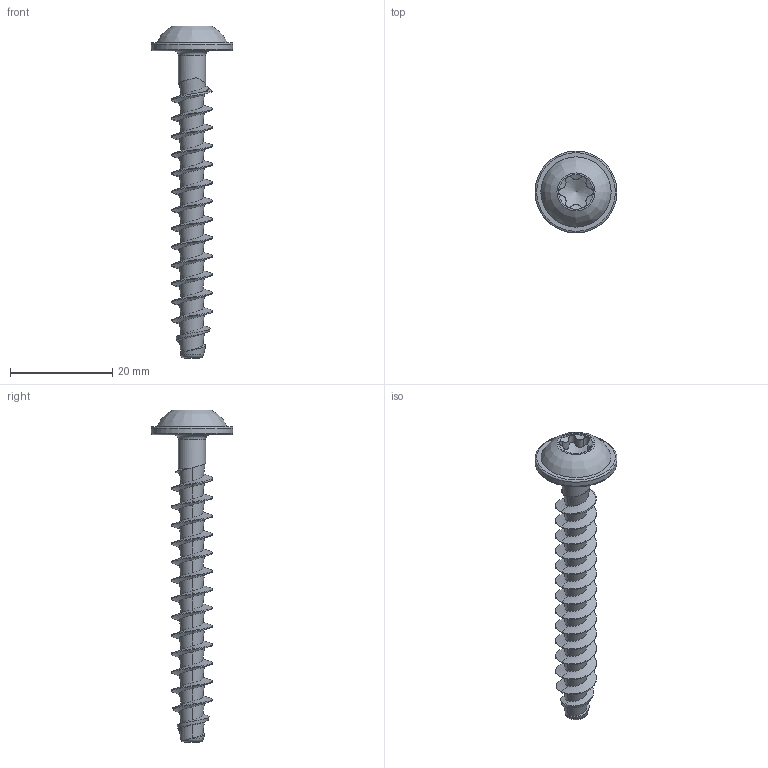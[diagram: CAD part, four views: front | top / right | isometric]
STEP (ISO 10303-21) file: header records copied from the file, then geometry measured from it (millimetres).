
FILE_DESCRIPTION(/* description */ (''),/* implementation_level */ '2;1');
FILE_NAME(/* name */ 'KN1038-STS-80x60-T40.step',/* time_stamp */ '2017-10-12T16:05:18+02:00',/* author */ (''),/* organization */ (''),/* preprocessor_version */ 'ST-DEVELOPER v16',/* originating_system */ 'SIEMENS PLM Software NX 10.0',/* authorisation */ '');
FILE_SCHEMA (('AUTOMOTIVE_DESIGN { 1 0 10303 214 3 1 1 1 }'));
Length unit declared in the file: millimetre
Products named in the file (1): KN1038-STS-80x60-T40
Bounding box: 16 x 16 x 64.85 mm (x, y, z)
Volume: 1865.1 mm3; surface area: 2242.6 mm2
Topology: 1 solids, 1 shells, 82 faces, 195 edges, 117 vertices
Faces by surface type: bspline 49, cylinder 16, cone 9, torus 4, plane 4
Full cylindrical faces by diameter (mm): 5.31 x1, 6.75 x1, 16 x1
Entity records: 7196 total; most frequent: CARTESIAN_POINT 5704, ORIENTED_EDGE 362, EDGE_CURVE 181, DIRECTION 165, VERTEX_POINT 113, B_SPLINE_CURVE_WITH_KNOTS 104, EDGE_LOOP 93, ADVANCED_FACE 82
